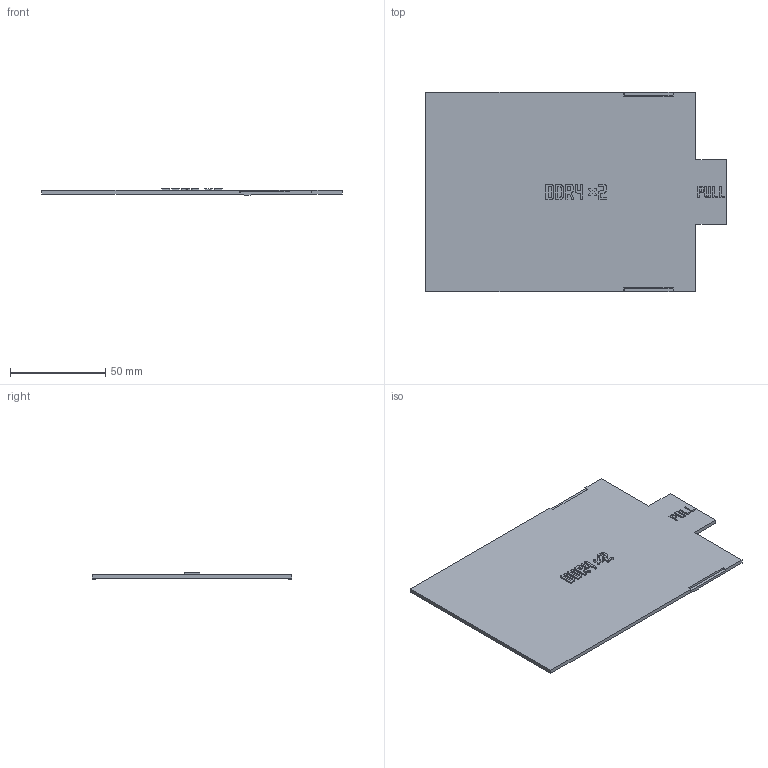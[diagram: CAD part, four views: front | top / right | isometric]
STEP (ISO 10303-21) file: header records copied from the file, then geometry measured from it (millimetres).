
FILE_DESCRIPTION(('Open CASCADE Model'),'2;1');
FILE_NAME('Open CASCADE Shape Model','2026-11-03T14:22:04',('Author'),( 'Open CASCADE'),'Open CASCADE STEP processor 8.0','build123d', 'Unknown');
FILE_SCHEMA(('AUTOMOTIVE_DESIGN { 1 0 10303 214 1 1 1 1 }'));
Products named in the file (1): COMPOUND
Bounding box: 158.05 x 104.7 x 3.4 mm (x, y, z)
Volume: 30796.6 mm3; surface area: 32220.9 mm2
Topology: 1 solids, 1 shells, 823 faces, 2421 edges, 1614 vertices
Faces by surface type: plane 823
Entity records: 58254 total; most frequent: CARTESIAN_POINT 9725, DIRECTION 8887, LINE 7239, VECTOR 7239, ORIENTED_EDGE 4842, PCURVE 4842, DEFINITIONAL_REPRESENTATION 4842, EDGE_CURVE 2421
